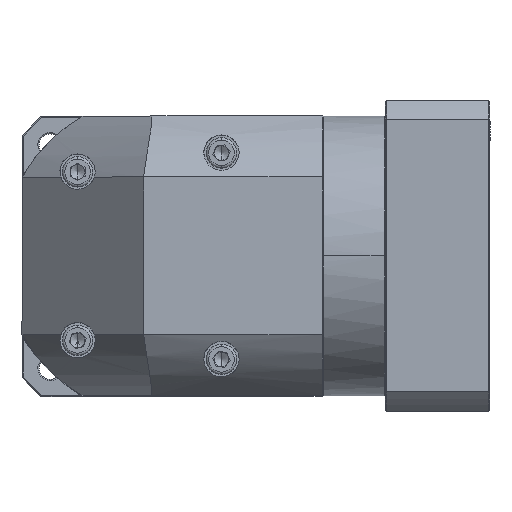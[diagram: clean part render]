
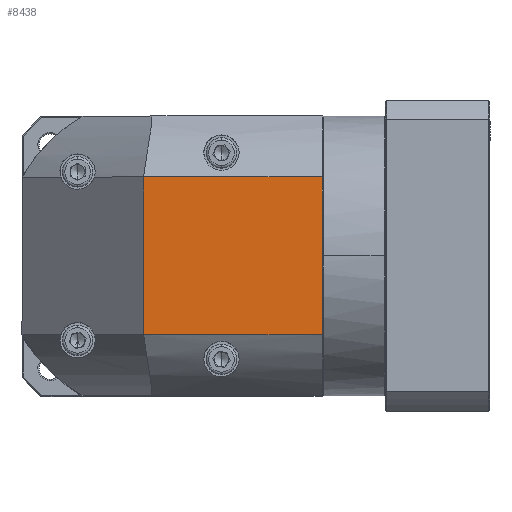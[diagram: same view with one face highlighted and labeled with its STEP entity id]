
A CAD part, top view. The second image highlights one B-rep face of the part: STEP entity #8438.
In plain terms, the highlighted planar face has unit normal (0, 0, 1).
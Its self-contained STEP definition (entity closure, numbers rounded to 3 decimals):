
#8438 = ADVANCED_FACE ( 'NONE', ( #68545 ), #30285, .F. ) ;
#8865 = VERTEX_POINT ( 'NONE', #89064 ) ;
#19363 = VECTOR ( 'NONE', #40664, 1000. ) ;
#19490 = CARTESIAN_POINT ( 'NONE',  ( 37.249, 57.731, 53.635 ) ) ;
#26556 = EDGE_CURVE ( 'NONE', #8865, #89401, #76598, .T. ) ;
#27188 = AXIS2_PLACEMENT_3D ( 'NONE', #19490, #52038, #51120 ) ;
#29384 = VERTEX_POINT ( 'NONE', #76540 ) ;
#30285 = PLANE ( 'NONE',  #27188 ) ;
#34883 = CARTESIAN_POINT ( 'NONE',  ( 29.749, 115.231, 53.635 ) ) ;
#35673 = ORIENTED_EDGE ( 'NONE', *, *, #93339, .F. ) ;
#35701 = EDGE_CURVE ( 'NONE', #89401, #29384, #90808, .T. ) ;
#36726 = CARTESIAN_POINT ( 'NONE',  ( 103.149, 90.131, 53.635 ) ) ;
#40099 = DIRECTION ( 'NONE',  ( 1., 0., 0. ) ) ;
#40664 = DIRECTION ( 'NONE',  ( 0., -1., 0. ) ) ;
#47857 = CARTESIAN_POINT ( 'NONE',  ( 29.749, 25.331, 53.635 ) ) ;
#51120 = DIRECTION ( 'NONE',  ( 0., -1., 0. ) ) ;
#52038 = DIRECTION ( 'NONE',  ( 0., 0., -1. ) ) ;
#57596 = VERTEX_POINT ( 'NONE', #47857 ) ;
#60505 = CARTESIAN_POINT ( 'NONE',  ( -20.251, 90.131, 53.635 ) ) ;
#68545 = FACE_OUTER_BOUND ( 'NONE', #82852, .T. ) ;
#75365 = VECTOR ( 'NONE', #119608, 1000. ) ;
#76540 = CARTESIAN_POINT ( 'NONE',  ( 103.149, 25.331, 53.635 ) ) ;
#76598 = LINE ( 'NONE', #60505, #106345 ) ;
#82852 = EDGE_LOOP ( 'NONE', ( #137642, #107248, #35673, #133822 ) ) ;
#84167 = CARTESIAN_POINT ( 'NONE',  ( 103.149, 115.231, 53.635 ) ) ;
#89064 = CARTESIAN_POINT ( 'NONE',  ( 29.749, 90.131, 53.635 ) ) ;
#89401 = VERTEX_POINT ( 'NONE', #36726 ) ;
#90808 = LINE ( 'NONE', #84167, #19363 ) ;
#93339 = EDGE_CURVE ( 'NONE', #29384, #57596, #115181, .T. ) ;
#93907 = VECTOR ( 'NONE', #110889, 1000. ) ;
#106345 = VECTOR ( 'NONE', #40099, 1000. ) ;
#107248 = ORIENTED_EDGE ( 'NONE', *, *, #119272, .F. ) ;
#108380 = CARTESIAN_POINT ( 'NONE',  ( -20.251, 25.331, 53.635 ) ) ;
#110889 = DIRECTION ( 'NONE',  ( 0., 1., 0. ) ) ;
#113840 = LINE ( 'NONE', #34883, #93907 ) ;
#115181 = LINE ( 'NONE', #108380, #75365 ) ;
#119272 = EDGE_CURVE ( 'NONE', #57596, #8865, #113840, .T. ) ;
#119608 = DIRECTION ( 'NONE',  ( -1., 0., 0. ) ) ;
#133822 = ORIENTED_EDGE ( 'NONE', *, *, #35701, .F. ) ;
#137642 = ORIENTED_EDGE ( 'NONE', *, *, #26556, .F. ) ;
